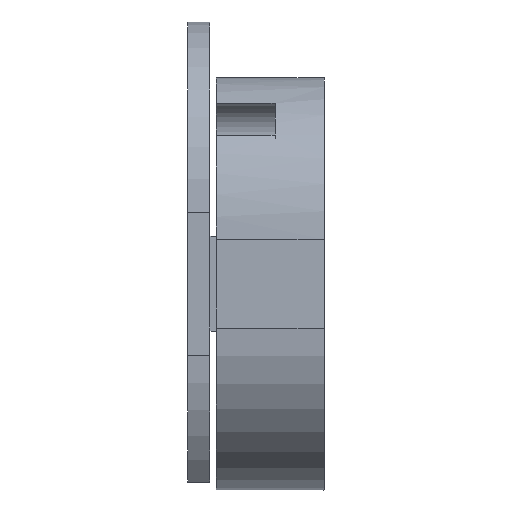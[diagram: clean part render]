
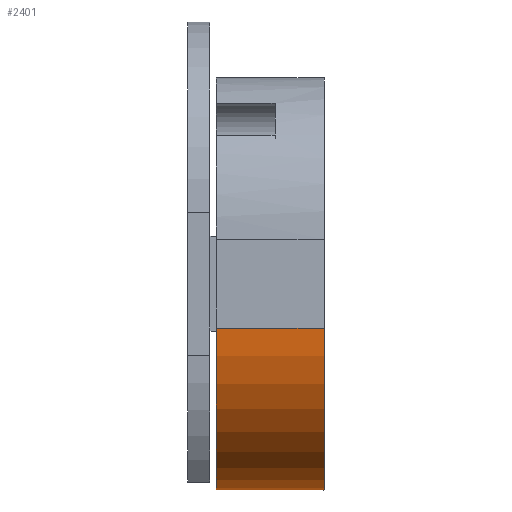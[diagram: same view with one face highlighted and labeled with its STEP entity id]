
A CAD part, front view. The second image highlights one B-rep face of the part: STEP entity #2401.
In plain terms, the highlighted cylindrical face has radius 5.1 mm (diameter 10.2 mm), a partial arc.
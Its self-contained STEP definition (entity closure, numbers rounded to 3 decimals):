
#1142 = PLANE('',#1143);
#1143 = AXIS2_PLACEMENT_3D('',#1144,#1145,#1146);
#1144 = CARTESIAN_POINT('',(40.9,-4.5,6.5));
#1145 = DIRECTION('',(1.,0.,0.));
#1146 = DIRECTION('',(0.,0.,-1.));
#1596 = VERTEX_POINT('',#1597);
#1597 = CARTESIAN_POINT('',(40.9,-4.5,-1.4));
#1611 = PLANE('',#1612);
#1612 = AXIS2_PLACEMENT_3D('',#1613,#1614,#1615);
#1613 = CARTESIAN_POINT('',(40.9,-4.5,6.5));
#1614 = DIRECTION('',(0.,1.,0.));
#1615 = DIRECTION('',(1.,-0.,0.));
#1623 = EDGE_CURVE('',#1624,#1596,#1626,.T.);
#1624 = VERTEX_POINT('',#1625);
#1625 = CARTESIAN_POINT('',(40.9,0.6,-6.5));
#1626 = SURFACE_CURVE('',#1627,(#1632,#1643),.PCURVE_S1.);
#1627 = CIRCLE('',#1628,5.1);
#1628 = AXIS2_PLACEMENT_3D('',#1629,#1630,#1631);
#1629 = CARTESIAN_POINT('',(40.9,0.6,-1.4));
#1630 = DIRECTION('',(-1.,-0.,0.));
#1631 = DIRECTION('',(0.,-1.,0.));
#1632 = PCURVE('',#1142,#1633);
#1633 = DEFINITIONAL_REPRESENTATION('',(#1634),#1642);
#1634 = ( BOUNDED_CURVE() B_SPLINE_CURVE(2,(#1635,#1636,#1637,#1638,
#1639,#1640,#1641),.UNSPECIFIED.,.T.,.F.) B_SPLINE_CURVE_WITH_KNOTS((1,2
    ,2,2,2,1),(-2.094,0.,2.094,4.189,
6.283,8.378),.UNSPECIFIED.) CURVE() 
GEOMETRIC_REPRESENTATION_ITEM() RATIONAL_B_SPLINE_CURVE((1.,0.5,1.,0.5,
1.,0.5,1.)) REPRESENTATION_ITEM('') );
#1635 = CARTESIAN_POINT('',(7.9,0.));
#1636 = CARTESIAN_POINT('',(-0.933,0.));
#1637 = CARTESIAN_POINT('',(3.483,7.65));
#1638 = CARTESIAN_POINT('',(7.9,15.3));
#1639 = CARTESIAN_POINT('',(12.317,7.65));
#1640 = CARTESIAN_POINT('',(16.733,0.));
#1641 = CARTESIAN_POINT('',(7.9,0.));
#1642 = ( GEOMETRIC_REPRESENTATION_CONTEXT(2) 
PARAMETRIC_REPRESENTATION_CONTEXT() REPRESENTATION_CONTEXT('2D SPACE',''
  ) );
#1643 = PCURVE('',#1644,#1649);
#1644 = CYLINDRICAL_SURFACE('',#1645,5.1);
#1645 = AXIS2_PLACEMENT_3D('',#1646,#1647,#1648);
#1646 = CARTESIAN_POINT('',(40.9,0.6,-1.4));
#1647 = DIRECTION('',(1.,0.,0.));
#1648 = DIRECTION('',(0.,0.,-1.));
#1649 = DEFINITIONAL_REPRESENTATION('',(#1650),#1654);
#1650 = LINE('',#1651,#1652);
#1651 = CARTESIAN_POINT('',(10.996,0.));
#1652 = VECTOR('',#1653,1.);
#1653 = DIRECTION('',(-1.,0.));
#1654 = ( GEOMETRIC_REPRESENTATION_CONTEXT(2) 
PARAMETRIC_REPRESENTATION_CONTEXT() REPRESENTATION_CONTEXT('2D SPACE',''
  ) );
#1672 = PLANE('',#1673);
#1673 = AXIS2_PLACEMENT_3D('',#1674,#1675,#1676);
#1674 = CARTESIAN_POINT('',(40.9,-4.5,-6.5));
#1675 = DIRECTION('',(0.,0.,-1.));
#1676 = DIRECTION('',(1.,0.,0.));
#1898 = PLANE('',#1899);
#1899 = AXIS2_PLACEMENT_3D('',#1900,#1901,#1902);
#1900 = CARTESIAN_POINT('',(44.3,-4.5,6.5));
#1901 = DIRECTION('',(1.,0.,0.));
#1902 = DIRECTION('',(0.,0.,-1.));
#2285 = VERTEX_POINT('',#2286);
#2286 = CARTESIAN_POINT('',(44.3,0.6,-6.5));
#2309 = EDGE_CURVE('',#1624,#2285,#2310,.T.);
#2310 = SURFACE_CURVE('',#2311,(#2315,#2322),.PCURVE_S1.);
#2311 = LINE('',#2312,#2313);
#2312 = CARTESIAN_POINT('',(40.9,0.6,-6.5));
#2313 = VECTOR('',#2314,1.);
#2314 = DIRECTION('',(1.,0.,0.));
#2315 = PCURVE('',#1672,#2316);
#2316 = DEFINITIONAL_REPRESENTATION('',(#2317),#2321);
#2317 = LINE('',#2318,#2319);
#2318 = CARTESIAN_POINT('',(0.,-5.1));
#2319 = VECTOR('',#2320,1.);
#2320 = DIRECTION('',(1.,0.));
#2321 = ( GEOMETRIC_REPRESENTATION_CONTEXT(2) 
PARAMETRIC_REPRESENTATION_CONTEXT() REPRESENTATION_CONTEXT('2D SPACE',''
  ) );
#2322 = PCURVE('',#1644,#2323);
#2323 = DEFINITIONAL_REPRESENTATION('',(#2324),#2328);
#2324 = LINE('',#2325,#2326);
#2325 = CARTESIAN_POINT('',(6.283,0.));
#2326 = VECTOR('',#2327,1.);
#2327 = DIRECTION('',(-0.,1.));
#2328 = ( GEOMETRIC_REPRESENTATION_CONTEXT(2) 
PARAMETRIC_REPRESENTATION_CONTEXT() REPRESENTATION_CONTEXT('2D SPACE',''
  ) );
#2401 = ADVANCED_FACE('',(#2402),#1644,.T.);
#2402 = FACE_BOUND('',#2403,.T.);
#2403 = EDGE_LOOP('',(#2404,#2405,#2433,#2454));
#2404 = ORIENTED_EDGE('',*,*,#2309,.T.);
#2405 = ORIENTED_EDGE('',*,*,#2406,.T.);
#2406 = EDGE_CURVE('',#2285,#2407,#2409,.T.);
#2407 = VERTEX_POINT('',#2408);
#2408 = CARTESIAN_POINT('',(44.3,-4.5,-1.4));
#2409 = SURFACE_CURVE('',#2410,(#2415,#2422),.PCURVE_S1.);
#2410 = CIRCLE('',#2411,5.1);
#2411 = AXIS2_PLACEMENT_3D('',#2412,#2413,#2414);
#2412 = CARTESIAN_POINT('',(44.3,0.6,-1.4));
#2413 = DIRECTION('',(-1.,-0.,0.));
#2414 = DIRECTION('',(0.,-1.,0.));
#2415 = PCURVE('',#1644,#2416);
#2416 = DEFINITIONAL_REPRESENTATION('',(#2417),#2421);
#2417 = LINE('',#2418,#2419);
#2418 = CARTESIAN_POINT('',(10.996,3.4));
#2419 = VECTOR('',#2420,1.);
#2420 = DIRECTION('',(-1.,0.));
#2421 = ( GEOMETRIC_REPRESENTATION_CONTEXT(2) 
PARAMETRIC_REPRESENTATION_CONTEXT() REPRESENTATION_CONTEXT('2D SPACE',''
  ) );
#2422 = PCURVE('',#1898,#2423);
#2423 = DEFINITIONAL_REPRESENTATION('',(#2424),#2432);
#2424 = ( BOUNDED_CURVE() B_SPLINE_CURVE(2,(#2425,#2426,#2427,#2428,
#2429,#2430,#2431),.UNSPECIFIED.,.T.,.F.) B_SPLINE_CURVE_WITH_KNOTS((1,2
    ,2,2,2,1),(-2.094,0.,2.094,4.189,
6.283,8.378),.UNSPECIFIED.) CURVE() 
GEOMETRIC_REPRESENTATION_ITEM() RATIONAL_B_SPLINE_CURVE((1.,0.5,1.,0.5,
1.,0.5,1.)) REPRESENTATION_ITEM('') );
#2425 = CARTESIAN_POINT('',(7.9,0.));
#2426 = CARTESIAN_POINT('',(-0.933,0.));
#2427 = CARTESIAN_POINT('',(3.483,7.65));
#2428 = CARTESIAN_POINT('',(7.9,15.3));
#2429 = CARTESIAN_POINT('',(12.317,7.65));
#2430 = CARTESIAN_POINT('',(16.733,0.));
#2431 = CARTESIAN_POINT('',(7.9,0.));
#2432 = ( GEOMETRIC_REPRESENTATION_CONTEXT(2) 
PARAMETRIC_REPRESENTATION_CONTEXT() REPRESENTATION_CONTEXT('2D SPACE',''
  ) );
#2433 = ORIENTED_EDGE('',*,*,#2434,.F.);
#2434 = EDGE_CURVE('',#1596,#2407,#2435,.T.);
#2435 = SURFACE_CURVE('',#2436,(#2440,#2447),.PCURVE_S1.);
#2436 = LINE('',#2437,#2438);
#2437 = CARTESIAN_POINT('',(40.9,-4.5,-1.4));
#2438 = VECTOR('',#2439,1.);
#2439 = DIRECTION('',(1.,0.,0.));
#2440 = PCURVE('',#1644,#2441);
#2441 = DEFINITIONAL_REPRESENTATION('',(#2442),#2446);
#2442 = LINE('',#2443,#2444);
#2443 = CARTESIAN_POINT('',(4.712,0.));
#2444 = VECTOR('',#2445,1.);
#2445 = DIRECTION('',(-0.,1.));
#2446 = ( GEOMETRIC_REPRESENTATION_CONTEXT(2) 
PARAMETRIC_REPRESENTATION_CONTEXT() REPRESENTATION_CONTEXT('2D SPACE',''
  ) );
#2447 = PCURVE('',#1611,#2448);
#2448 = DEFINITIONAL_REPRESENTATION('',(#2449),#2453);
#2449 = LINE('',#2450,#2451);
#2450 = CARTESIAN_POINT('',(0.,7.9));
#2451 = VECTOR('',#2452,1.);
#2452 = DIRECTION('',(1.,0.));
#2453 = ( GEOMETRIC_REPRESENTATION_CONTEXT(2) 
PARAMETRIC_REPRESENTATION_CONTEXT() REPRESENTATION_CONTEXT('2D SPACE',''
  ) );
#2454 = ORIENTED_EDGE('',*,*,#1623,.F.);
